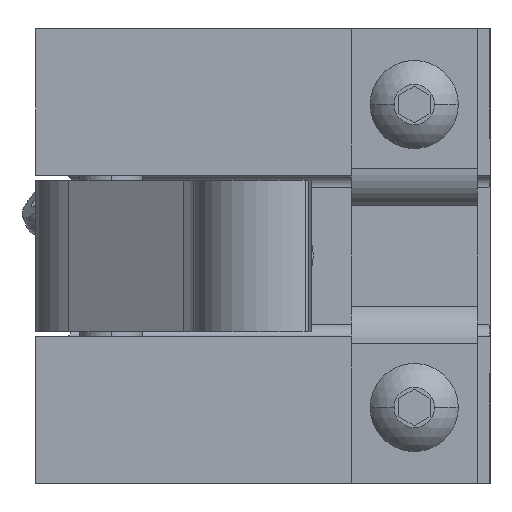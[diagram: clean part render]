
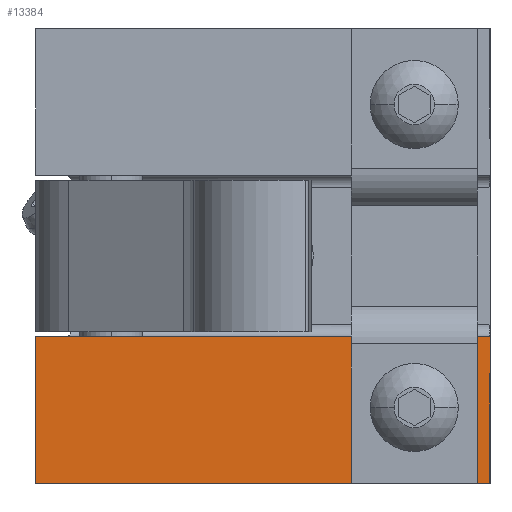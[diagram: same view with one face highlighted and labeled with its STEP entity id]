
A CAD part, left-side view. The second image highlights one B-rep face of the part: STEP entity #13384.
In plain terms, the highlighted planar face has unit normal (-1, 0, 0).
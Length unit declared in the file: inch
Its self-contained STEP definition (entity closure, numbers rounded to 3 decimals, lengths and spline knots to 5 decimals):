
#1578 = VERTEX_POINT ( 'NONE', #14109 ) ;
#1580 = EDGE_CURVE ( 'NONE', #1578, #1581, #14108, .T. ) ;
#1581 = VERTEX_POINT ( 'NONE', #14103 ) ;
#8549 = CARTESIAN_POINT ( 'NONE',  ( 7.43951, 3.75404, -2.25 ) ) ;
#8551 = LINE ( 'NONE', #8549, #8693 ) ;
#8554 = CARTESIAN_POINT ( 'NONE',  ( 7.43951, 3.75404, -1.525 ) ) ;
#8689 = CARTESIAN_POINT ( 'NONE',  ( 7.43951, 3.75404, -2.25 ) ) ;
#8691 = DIRECTION ( 'NONE',  ( 0., 0., 1. ) ) ;
#8693 = VECTOR ( 'NONE', #8691, 39.37008 ) ;
#10429 = CARTESIAN_POINT ( 'NONE',  ( 7.43951, 6.00404, -2.25 ) ) ;
#10430 = CARTESIAN_POINT ( 'NONE',  ( 7.43951, 6.00404, -1.525 ) ) ;
#10431 = DIRECTION ( 'NONE',  ( 0., -1., 0. ) ) ;
#10432 = VECTOR ( 'NONE', #10431, 39.37008 ) ;
#10433 = CARTESIAN_POINT ( 'NONE',  ( 7.43951, 3.75404, -1.525 ) ) ;
#10434 = LINE ( 'NONE', #10433, #10432 ) ;
#10563 = DIRECTION ( 'NONE',  ( 0., -1., 0. ) ) ;
#10564 = VECTOR ( 'NONE', #10563, 39.37008 ) ;
#10565 = CARTESIAN_POINT ( 'NONE',  ( 7.43951, 3.75404, -2.25 ) ) ;
#10566 = LINE ( 'NONE', #10565, #10564 ) ;
#10567 = DIRECTION ( 'NONE',  ( 0., 0., 1. ) ) ;
#10568 = VECTOR ( 'NONE', #10567, 39.37008 ) ;
#10569 = CARTESIAN_POINT ( 'NONE',  ( 7.43951, 6.00404, -2.25 ) ) ;
#10570 = LINE ( 'NONE', #10569, #10568 ) ;
#10588 = DIRECTION ( 'NONE',  ( 0., 0., 1. ) ) ;
#10589 = DIRECTION ( 'NONE',  ( -1., 0., 0. ) ) ;
#10590 = AXIS2_PLACEMENT_3D ( 'NONE', #10595, #10589, #10588 ) ;
#10591 = CIRCLE ( 'NONE', #10590, 0.125 ) ;
#10592 = DIRECTION ( 'NONE',  ( 0., 0., 1. ) ) ;
#10593 = DIRECTION ( 'NONE',  ( -1., 0., 0. ) ) ;
#10594 = CARTESIAN_POINT ( 'NONE',  ( 7.43951, 3.75404, -2.25 ) ) ;
#10595 = CARTESIAN_POINT ( 'NONE',  ( 7.43951, 4.12904, -1.875 ) ) ;
#10596 = AXIS2_PLACEMENT_3D ( 'NONE', #10594, #10593, #10592 ) ;
#10597 = PLANE ( 'NONE',  #10596 ) ;
#10598 = FACE_OUTER_BOUND ( 'NONE', #13306, .T. ) ;
#10599 = FACE_BOUND ( 'NONE', #13385, .T. ) ;
#12987 = VERTEX_POINT ( 'NONE', #8554 ) ;
#12989 = EDGE_CURVE ( 'NONE', #12990, #12987, #8551, .T. ) ;
#12990 = VERTEX_POINT ( 'NONE', #8689 ) ;
#13306 = EDGE_LOOP ( 'NONE', ( #13307, #13310, #13369, #13371 ) ) ;
#13307 = ORIENTED_EDGE ( 'NONE', *, *, #13308, .F. ) ;
#13308 = EDGE_CURVE ( 'NONE', #13309, #12987, #10434, .T. ) ;
#13309 = VERTEX_POINT ( 'NONE', #10430 ) ;
#13310 = ORIENTED_EDGE ( 'NONE', *, *, #13368, .F. ) ;
#13311 = VERTEX_POINT ( 'NONE', #10429 ) ;
#13368 = EDGE_CURVE ( 'NONE', #13311, #13309, #10570, .T. ) ;
#13369 = ORIENTED_EDGE ( 'NONE', *, *, #13370, .T. ) ;
#13370 = EDGE_CURVE ( 'NONE', #13311, #12990, #10566, .T. ) ;
#13371 = ORIENTED_EDGE ( 'NONE', *, *, #12989, .T. ) ;
#13384 = ADVANCED_FACE ( 'NONE', ( #10599, #10598 ), #10597, .T. ) ;
#13385 = EDGE_LOOP ( 'NONE', ( #13386, #13388 ) ) ;
#13386 = ORIENTED_EDGE ( 'NONE', *, *, #13387, .F. ) ;
#13387 = EDGE_CURVE ( 'NONE', #1581, #1578, #10591, .T. ) ;
#13388 = ORIENTED_EDGE ( 'NONE', *, *, #1580, .F. ) ;
#14103 = CARTESIAN_POINT ( 'NONE',  ( 7.43951, 4.12904, -1.75 ) ) ;
#14104 = DIRECTION ( 'NONE',  ( 0., 0., 1. ) ) ;
#14105 = DIRECTION ( 'NONE',  ( -1., 0., 0. ) ) ;
#14106 = CARTESIAN_POINT ( 'NONE',  ( 7.43951, 4.12904, -1.875 ) ) ;
#14107 = AXIS2_PLACEMENT_3D ( 'NONE', #14106, #14105, #14104 ) ;
#14108 = CIRCLE ( 'NONE', #14107, 0.125 ) ;
#14109 = CARTESIAN_POINT ( 'NONE',  ( 7.43951, 4.12904, -2. ) ) ;
